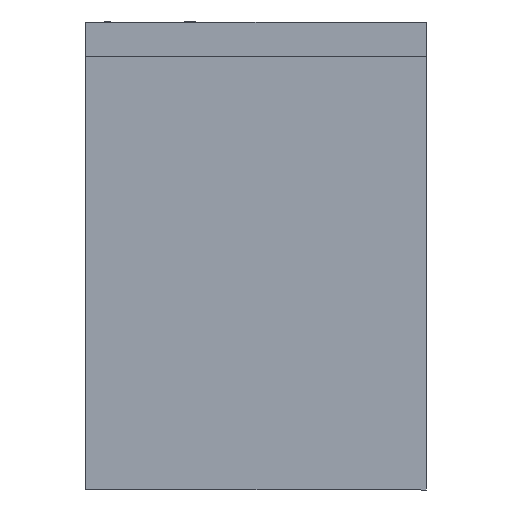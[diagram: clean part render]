
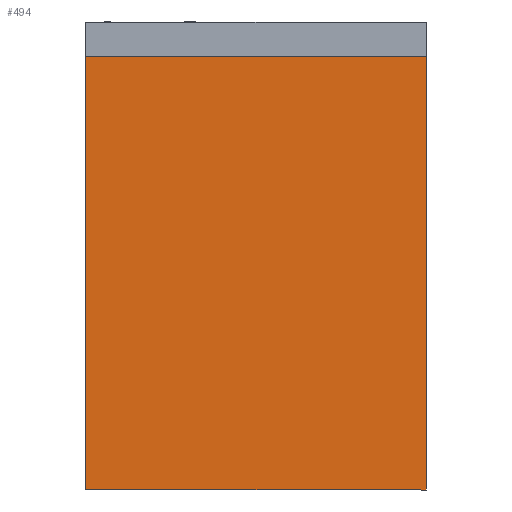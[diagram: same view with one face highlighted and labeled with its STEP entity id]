
A CAD part, left-side view. The second image highlights one B-rep face of the part: STEP entity #494.
In plain terms, the highlighted planar face has unit normal (-1, 0, 0).
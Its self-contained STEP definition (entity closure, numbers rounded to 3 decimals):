
#72=FACE_OUTER_BOUND('',#112,.T.);
#112=EDGE_LOOP('',(#425,#426,#427,#428));
#124=LINE('',#701,#174);
#135=LINE('',#730,#185);
#162=LINE('',#809,#212);
#163=LINE('',#810,#213);
#174=VECTOR('',#566,10.);
#185=VECTOR('',#587,10.);
#212=VECTOR('',#668,10.);
#213=VECTOR('',#669,10.);
#223=VERTEX_POINT('',#698);
#224=VERTEX_POINT('',#700);
#237=VERTEX_POINT('',#728);
#262=VERTEX_POINT('',#808);
#268=EDGE_CURVE('',#224,#223,#124,.T.);
#283=EDGE_CURVE('',#223,#237,#135,.T.);
#322=EDGE_CURVE('',#237,#262,#162,.T.);
#323=EDGE_CURVE('',#224,#262,#163,.T.);
#425=ORIENTED_EDGE('',*,*,#268,.T.);
#426=ORIENTED_EDGE('',*,*,#283,.T.);
#427=ORIENTED_EDGE('',*,*,#322,.T.);
#428=ORIENTED_EDGE('',*,*,#323,.F.);
#474=PLANE('',#548);
#494=ADVANCED_FACE('',(#72),#474,.T.);
#548=AXIS2_PLACEMENT_3D('',#807,#666,#667);
#566=DIRECTION('',(0.,1.,0.));
#587=DIRECTION('',(0.,0.,-1.));
#666=DIRECTION('center_axis',(-1.,0.,0.));
#667=DIRECTION('ref_axis',(0.,0.,-1.));
#668=DIRECTION('',(0.,-1.,0.));
#669=DIRECTION('',(0.,0.,-1.));
#698=CARTESIAN_POINT('',(-1.5,84.833,-60.));
#700=CARTESIAN_POINT('',(-1.5,64.833,-60.));
#701=CARTESIAN_POINT('',(-1.5,79.833,-60.));
#728=CARTESIAN_POINT('',(-1.5,84.833,-85.5));
#730=CARTESIAN_POINT('',(-1.5,84.833,-59.5));
#807=CARTESIAN_POINT('Origin',(-1.5,84.833,-59.5));
#808=CARTESIAN_POINT('',(-1.5,64.833,-85.5));
#809=CARTESIAN_POINT('',(-1.5,84.833,-85.5));
#810=CARTESIAN_POINT('',(-1.5,64.833,-59.5));
